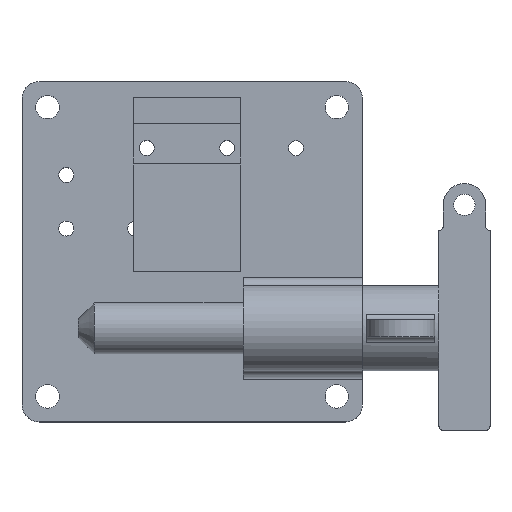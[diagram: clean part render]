
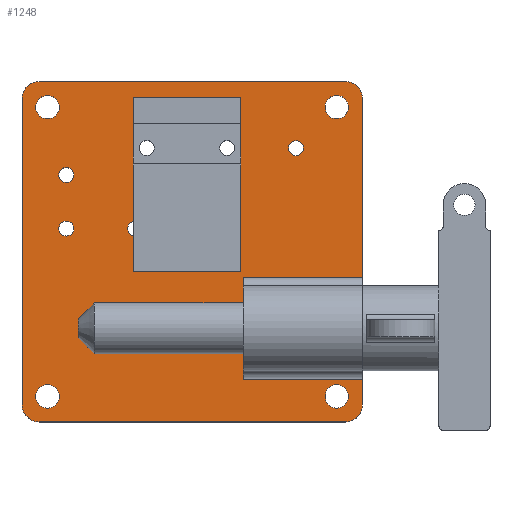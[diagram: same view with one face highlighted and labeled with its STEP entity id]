
A CAD part, top view. The second image highlights one B-rep face of the part: STEP entity #1248.
In plain terms, the highlighted planar face has unit normal (0, 0, 1).
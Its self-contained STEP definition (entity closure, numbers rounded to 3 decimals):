
#18=LINE('',#1888,#110);
#21=LINE('',#1894,#113);
#22=LINE('',#1896,#114);
#23=LINE('',#1898,#115);
#24=LINE('',#1900,#116);
#25=LINE('',#1902,#117);
#26=LINE('',#1906,#118);
#27=LINE('',#1910,#119);
#110=VECTOR('',#1533,10.);
#113=VECTOR('',#1538,10.);
#114=VECTOR('',#1539,10.);
#115=VECTOR('',#1540,10.);
#116=VECTOR('',#1541,10.);
#117=VECTOR('',#1542,10.);
#118=VECTOR('',#1545,10.);
#119=VECTOR('',#1548,10.);
#202=PLANE('',#1352);
#280=FACE_BOUND('',#412,.T.);
#281=FACE_BOUND('',#413,.T.);
#282=FACE_BOUND('',#414,.T.);
#283=FACE_BOUND('',#415,.T.);
#284=FACE_BOUND('',#416,.T.);
#285=FACE_BOUND('',#417,.T.);
#286=FACE_BOUND('',#418,.T.);
#287=FACE_BOUND('',#419,.T.);
#288=FACE_BOUND('',#420,.T.);
#289=FACE_BOUND('',#421,.T.);
#330=FACE_OUTER_BOUND('',#411,.T.);
#411=EDGE_LOOP('',(#877,#878,#879,#880,#881,#882,#883,#884,#885,#886,#887,
#888));
#412=EDGE_LOOP('',(#889));
#413=EDGE_LOOP('',(#890));
#414=EDGE_LOOP('',(#891));
#415=EDGE_LOOP('',(#892));
#416=EDGE_LOOP('',(#893));
#417=EDGE_LOOP('',(#894));
#418=EDGE_LOOP('',(#895));
#419=EDGE_LOOP('',(#896));
#420=EDGE_LOOP('',(#897));
#421=EDGE_LOOP('',(#898));
#504=CIRCLE('',#1320,2.795);
#506=CIRCLE('',#1323,2.795);
#508=CIRCLE('',#1326,2.795);
#510=CIRCLE('',#1329,2.795);
#512=CIRCLE('',#1332,2.795);
#514=CIRCLE('',#1335,2.795);
#516=CIRCLE('',#1338,4.37);
#518=CIRCLE('',#1341,4.37);
#520=CIRCLE('',#1344,4.37);
#522=CIRCLE('',#1347,4.37);
#523=CIRCLE('',#1349,6.35);
#525=CIRCLE('',#1353,6.35);
#526=CIRCLE('',#1354,6.35);
#527=CIRCLE('',#1355,6.35);
#572=VERTEX_POINT('',#1830);
#574=VERTEX_POINT('',#1835);
#576=VERTEX_POINT('',#1840);
#578=VERTEX_POINT('',#1845);
#580=VERTEX_POINT('',#1850);
#582=VERTEX_POINT('',#1855);
#584=VERTEX_POINT('',#1860);
#586=VERTEX_POINT('',#1865);
#588=VERTEX_POINT('',#1870);
#590=VERTEX_POINT('',#1875);
#591=VERTEX_POINT('',#1878);
#592=VERTEX_POINT('',#1879);
#595=VERTEX_POINT('',#1887);
#597=VERTEX_POINT('',#1893);
#598=VERTEX_POINT('',#1895);
#599=VERTEX_POINT('',#1897);
#600=VERTEX_POINT('',#1899);
#601=VERTEX_POINT('',#1901);
#602=VERTEX_POINT('',#1903);
#603=VERTEX_POINT('',#1905);
#604=VERTEX_POINT('',#1907);
#605=VERTEX_POINT('',#1909);
#688=EDGE_CURVE('',#572,#572,#504,.T.);
#690=EDGE_CURVE('',#574,#574,#506,.T.);
#692=EDGE_CURVE('',#576,#576,#508,.T.);
#694=EDGE_CURVE('',#578,#578,#510,.T.);
#696=EDGE_CURVE('',#580,#580,#512,.T.);
#698=EDGE_CURVE('',#582,#582,#514,.T.);
#700=EDGE_CURVE('',#584,#584,#516,.T.);
#702=EDGE_CURVE('',#586,#586,#518,.T.);
#704=EDGE_CURVE('',#588,#588,#520,.T.);
#706=EDGE_CURVE('',#590,#590,#522,.T.);
#707=EDGE_CURVE('',#591,#592,#523,.T.);
#711=EDGE_CURVE('',#595,#592,#18,.T.);
#714=EDGE_CURVE('',#591,#597,#21,.T.);
#715=EDGE_CURVE('',#598,#597,#22,.T.);
#716=EDGE_CURVE('',#598,#599,#23,.T.);
#717=EDGE_CURVE('',#600,#599,#24,.T.);
#718=EDGE_CURVE('',#600,#601,#25,.T.);
#719=EDGE_CURVE('',#602,#601,#525,.T.);
#720=EDGE_CURVE('',#602,#603,#26,.T.);
#721=EDGE_CURVE('',#604,#603,#526,.T.);
#722=EDGE_CURVE('',#604,#605,#27,.T.);
#723=EDGE_CURVE('',#595,#605,#527,.T.);
#877=ORIENTED_EDGE('',*,*,#707,.F.);
#878=ORIENTED_EDGE('',*,*,#714,.T.);
#879=ORIENTED_EDGE('',*,*,#715,.F.);
#880=ORIENTED_EDGE('',*,*,#716,.T.);
#881=ORIENTED_EDGE('',*,*,#717,.F.);
#882=ORIENTED_EDGE('',*,*,#718,.T.);
#883=ORIENTED_EDGE('',*,*,#719,.F.);
#884=ORIENTED_EDGE('',*,*,#720,.T.);
#885=ORIENTED_EDGE('',*,*,#721,.F.);
#886=ORIENTED_EDGE('',*,*,#722,.T.);
#887=ORIENTED_EDGE('',*,*,#723,.F.);
#888=ORIENTED_EDGE('',*,*,#711,.T.);
#889=ORIENTED_EDGE('',*,*,#688,.T.);
#890=ORIENTED_EDGE('',*,*,#690,.T.);
#891=ORIENTED_EDGE('',*,*,#692,.T.);
#892=ORIENTED_EDGE('',*,*,#694,.T.);
#893=ORIENTED_EDGE('',*,*,#696,.T.);
#894=ORIENTED_EDGE('',*,*,#698,.T.);
#895=ORIENTED_EDGE('',*,*,#700,.T.);
#896=ORIENTED_EDGE('',*,*,#702,.T.);
#897=ORIENTED_EDGE('',*,*,#704,.T.);
#898=ORIENTED_EDGE('',*,*,#706,.T.);
#1248=ADVANCED_FACE('',(#330,#280,#281,#282,#283,#284,#285,#286,#287,#288,
#289),#202,.T.);
#1320=AXIS2_PLACEMENT_3D('',#1831,#1467,#1468);
#1323=AXIS2_PLACEMENT_3D('',#1836,#1473,#1474);
#1326=AXIS2_PLACEMENT_3D('',#1841,#1479,#1480);
#1329=AXIS2_PLACEMENT_3D('',#1846,#1485,#1486);
#1332=AXIS2_PLACEMENT_3D('',#1851,#1491,#1492);
#1335=AXIS2_PLACEMENT_3D('',#1856,#1497,#1498);
#1338=AXIS2_PLACEMENT_3D('',#1861,#1503,#1504);
#1341=AXIS2_PLACEMENT_3D('',#1866,#1509,#1510);
#1344=AXIS2_PLACEMENT_3D('',#1871,#1515,#1516);
#1347=AXIS2_PLACEMENT_3D('',#1876,#1521,#1522);
#1349=AXIS2_PLACEMENT_3D('',#1880,#1525,#1526);
#1352=AXIS2_PLACEMENT_3D('',#1892,#1536,#1537);
#1353=AXIS2_PLACEMENT_3D('',#1904,#1543,#1544);
#1354=AXIS2_PLACEMENT_3D('',#1908,#1546,#1547);
#1355=AXIS2_PLACEMENT_3D('',#1911,#1549,#1550);
#1467=DIRECTION('center_axis',(0.,0.,-1.));
#1468=DIRECTION('ref_axis',(1.,0.,0.));
#1473=DIRECTION('center_axis',(0.,0.,-1.));
#1474=DIRECTION('ref_axis',(1.,0.,0.));
#1479=DIRECTION('center_axis',(0.,0.,-1.));
#1480=DIRECTION('ref_axis',(1.,0.,0.));
#1485=DIRECTION('center_axis',(0.,0.,-1.));
#1486=DIRECTION('ref_axis',(1.,0.,0.));
#1491=DIRECTION('center_axis',(0.,0.,-1.));
#1492=DIRECTION('ref_axis',(1.,0.,0.));
#1497=DIRECTION('center_axis',(0.,0.,-1.));
#1498=DIRECTION('ref_axis',(1.,0.,0.));
#1503=DIRECTION('center_axis',(0.,0.,-1.));
#1504=DIRECTION('ref_axis',(1.,0.,0.));
#1509=DIRECTION('center_axis',(0.,0.,-1.));
#1510=DIRECTION('ref_axis',(1.,0.,0.));
#1515=DIRECTION('center_axis',(0.,0.,-1.));
#1516=DIRECTION('ref_axis',(1.,0.,0.));
#1521=DIRECTION('center_axis',(0.,0.,-1.));
#1522=DIRECTION('ref_axis',(1.,0.,0.));
#1525=DIRECTION('center_axis',(0.,0.,-1.));
#1526=DIRECTION('ref_axis',(0.707,-0.707,0.));
#1533=DIRECTION('',(1.,0.,0.));
#1536=DIRECTION('center_axis',(0.,0.,1.));
#1537=DIRECTION('ref_axis',(1.,0.,0.));
#1538=DIRECTION('',(0.,1.,0.));
#1539=DIRECTION('',(1.,0.,0.));
#1540=DIRECTION('',(0.,1.,0.));
#1541=DIRECTION('',(-1.,0.,0.));
#1542=DIRECTION('',(0.,1.,0.));
#1543=DIRECTION('center_axis',(0.,0.,-1.));
#1544=DIRECTION('ref_axis',(0.707,0.707,0.));
#1545=DIRECTION('',(-1.,0.,0.));
#1546=DIRECTION('center_axis',(0.,0.,-1.));
#1547=DIRECTION('ref_axis',(-0.707,0.707,0.));
#1548=DIRECTION('',(0.,-1.,0.));
#1549=DIRECTION('center_axis',(0.,0.,-1.));
#1550=DIRECTION('ref_axis',(-0.707,-0.707,0.));
#1830=CARTESIAN_POINT('',(-44.165,8.66,9.525));
#1831=CARTESIAN_POINT('Origin',(-46.96,8.66,9.525));
#1835=CARTESIAN_POINT('',(-14.175,38.68,9.525));
#1836=CARTESIAN_POINT('Origin',(-16.97,38.68,9.525));
#1840=CARTESIAN_POINT('',(41.535,38.68,9.525));
#1841=CARTESIAN_POINT('Origin',(38.74,38.68,9.525));
#1845=CARTESIAN_POINT('',(15.825,38.68,9.525));
#1846=CARTESIAN_POINT('Origin',(13.03,38.68,9.525));
#1850=CARTESIAN_POINT('',(-18.465,8.66,9.525));
#1851=CARTESIAN_POINT('Origin',(-21.26,8.66,9.525));
#1855=CARTESIAN_POINT('',(-44.165,28.65,9.525));
#1856=CARTESIAN_POINT('Origin',(-46.96,28.65,9.525));
#1860=CARTESIAN_POINT('',(-49.605,-53.975,9.525));
#1861=CARTESIAN_POINT('Origin',(-53.975,-53.975,9.525));
#1865=CARTESIAN_POINT('',(58.345,53.975,9.525));
#1866=CARTESIAN_POINT('Origin',(53.975,53.975,9.525));
#1870=CARTESIAN_POINT('',(-49.605,53.975,9.525));
#1871=CARTESIAN_POINT('Origin',(-53.975,53.975,9.525));
#1875=CARTESIAN_POINT('',(58.345,-53.975,9.525));
#1876=CARTESIAN_POINT('Origin',(53.975,-53.975,9.525));
#1878=CARTESIAN_POINT('',(63.5,-57.15,9.525));
#1879=CARTESIAN_POINT('',(57.15,-63.5,9.525));
#1880=CARTESIAN_POINT('Origin',(57.15,-57.15,9.525));
#1887=CARTESIAN_POINT('',(-57.15,-63.5,9.525));
#1888=CARTESIAN_POINT('',(-63.5,-63.5,9.525));
#1892=CARTESIAN_POINT('Origin',(0.,0.,9.525));
#1893=CARTESIAN_POINT('',(63.5,-47.625,9.525));
#1894=CARTESIAN_POINT('',(63.5,-63.5,9.525));
#1895=CARTESIAN_POINT('',(19.05,-47.625,9.525));
#1896=CARTESIAN_POINT('',(31.75,-47.625,9.525));
#1897=CARTESIAN_POINT('',(19.05,-9.525,9.525));
#1898=CARTESIAN_POINT('',(19.05,-14.288,9.525));
#1899=CARTESIAN_POINT('',(63.5,-9.525,9.525));
#1900=CARTESIAN_POINT('',(31.75,-9.525,9.525));
#1901=CARTESIAN_POINT('',(63.5,57.15,9.525));
#1902=CARTESIAN_POINT('',(63.5,-63.5,9.525));
#1903=CARTESIAN_POINT('',(57.15,63.5,9.525));
#1904=CARTESIAN_POINT('Origin',(57.15,57.15,9.525));
#1905=CARTESIAN_POINT('',(-57.15,63.5,9.525));
#1906=CARTESIAN_POINT('',(63.5,63.5,9.525));
#1907=CARTESIAN_POINT('',(-63.5,57.15,9.525));
#1908=CARTESIAN_POINT('Origin',(-57.15,57.15,9.525));
#1909=CARTESIAN_POINT('',(-63.5,-57.15,9.525));
#1910=CARTESIAN_POINT('',(-63.5,63.5,9.525));
#1911=CARTESIAN_POINT('Origin',(-57.15,-57.15,9.525));
